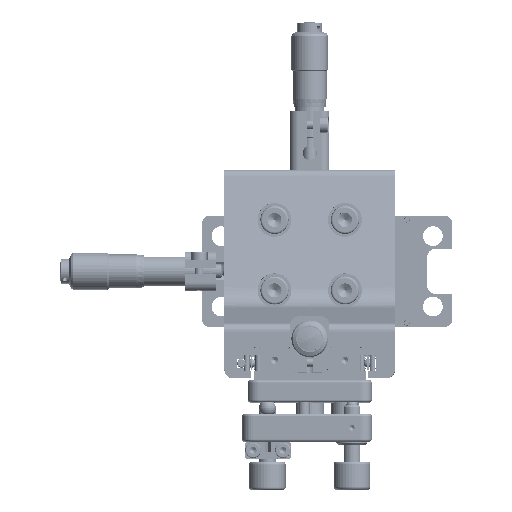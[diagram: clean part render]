
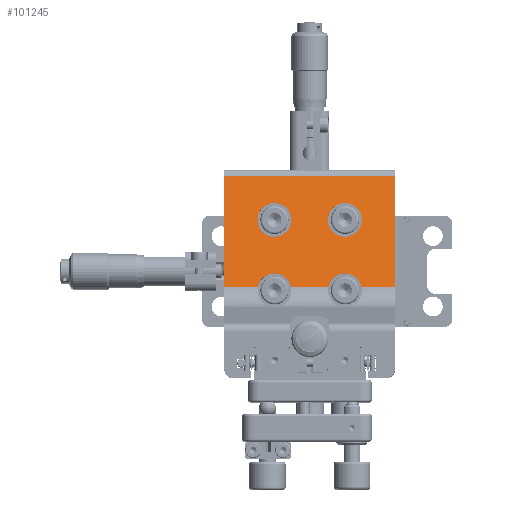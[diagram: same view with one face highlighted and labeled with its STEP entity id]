
A CAD part, top view. The second image highlights one B-rep face of the part: STEP entity #101245.
In plain terms, the highlighted planar face has unit normal (0, 0.259, 0.966).
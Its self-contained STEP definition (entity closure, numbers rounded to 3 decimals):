
#139 = CARTESIAN_POINT ( 'NONE',  ( 24.05, -5.673, 43.816 ) ) ;
#5221 = CARTESIAN_POINT ( 'NONE',  ( 0.3, 18.2, 37.419 ) ) ;
#7699 = CARTESIAN_POINT ( 'NONE',  ( -12.7, 18.2, 37.419 ) ) ;
#7744 = ORIENTED_EDGE ( 'NONE', *, *, #61722, .T. ) ;
#8431 = CARTESIAN_POINT ( 'NONE',  ( 0.3, 18.2, 37.419 ) ) ;
#9062 = CARTESIAN_POINT ( 'NONE',  ( 0.407, -5.673, 43.816 ) ) ;
#10529 = ORIENTED_EDGE ( 'NONE', *, *, #87247, .T. ) ;
#11404 = EDGE_LOOP ( 'NONE', ( #100522, #61853, #89810, #42454, #61532, #131592, #59113, #17588 ) ) ;
#14447 = CARTESIAN_POINT ( 'NONE',  ( -36.45, -11.827, 45.465 ) ) ;
#14701 = CARTESIAN_POINT ( 'NONE',  ( -12.807, -5.673, 43.816 ) ) ;
#14703 = EDGE_CURVE ( 'NONE', #110579, #68047, #124233, .T. ) ;
#14818 = EDGE_CURVE ( 'NONE', #88281, #42251, #20792, .T. ) ;
#15012 = CARTESIAN_POINT ( 'NONE',  ( -24.7, 18.2, 37.419 ) ) ;
#15852 = CARTESIAN_POINT ( 'NONE',  ( -36.45, -5.673, 43.816 ) ) ;
#15856 = VECTOR ( 'NONE', #117612, 1000. ) ;
#17588 = ORIENTED_EDGE ( 'NONE', *, *, #48078, .T. ) ;
#18419 = CARTESIAN_POINT ( 'NONE',  ( -12.7, 6.2, 40.635 ) ) ;
#19699 = EDGE_LOOP ( 'NONE', ( #7744, #10529 ) ) ;
#20792 =( BOUNDED_CURVE ( )  B_SPLINE_CURVE ( 3, ( #32433, #42677, #113911, #95242 ),
 .UNSPECIFIED., .F., .F. ) 
 B_SPLINE_CURVE_WITH_KNOTS ( ( 4, 4 ),
 ( 4.712, 7.854 ),
 .UNSPECIFIED. ) 
 CURVE ( )  GEOMETRIC_REPRESENTATION_ITEM ( )  RATIONAL_B_SPLINE_CURVE ( ( 1., 0.333, 0.333, 1. ) ) 
 REPRESENTATION_ITEM ( '' )  );
#24965 = CARTESIAN_POINT ( 'NONE',  ( -14.417, 2.741, 41.562 ) ) ;
#24966 = CARTESIAN_POINT ( 'NONE',  ( -36.45, 33.776, 33.246 ) ) ;
#25463 = LINE ( 'NONE', #47279, #15856 ) ;
#25754 = ORIENTED_EDGE ( 'NONE', *, *, #60972, .T. ) ;
#26575 = CARTESIAN_POINT ( 'NONE',  ( -12.807, -5.673, 43.816 ) ) ;
#27468 = CARTESIAN_POINT ( 'NONE',  ( -12.7, 18.2, 37.419 ) ) ;
#30183 = VECTOR ( 'NONE', #96827, 1000. ) ;
#32433 = CARTESIAN_POINT ( 'NONE',  ( 12.3, 18.2, 37.419 ) ) ;
#38830 = CARTESIAN_POINT ( 'NONE',  ( -24.7, 18.2, 37.419 ) ) ;
#39434 = LINE ( 'NONE', #49066, #104802 ) ;
#41556 = LINE ( 'NONE', #24966, #49467 ) ;
#41573 = FACE_BOUND ( 'NONE', #63330, .T. ) ;
#42251 = VERTEX_POINT ( 'NONE', #5221 ) ;
#42454 = ORIENTED_EDGE ( 'NONE', *, *, #79656, .T. ) ;
#42677 = CARTESIAN_POINT ( 'NONE',  ( 12.3, 6.2, 40.635 ) ) ;
#45426 =( BOUNDED_CURVE ( )  B_SPLINE_CURVE ( 3, ( #105998, #75765, #24965, #14701 ),
 .UNSPECIFIED., .F., .F. ) 
 B_SPLINE_CURVE_WITH_KNOTS ( ( 4, 4 ),
 ( 1.76, 4.523 ),
 .UNSPECIFIED. ) 
 CURVE ( )  GEOMETRIC_REPRESENTATION_ITEM ( )  RATIONAL_B_SPLINE_CURVE ( ( 1., 0.459, 0.459, 1. ) ) 
 REPRESENTATION_ITEM ( '' )  );
#46189 =( BOUNDED_CURVE ( )  B_SPLINE_CURVE ( 3, ( #7699, #18419, #88405, #38830 ),
 .UNSPECIFIED., .F., .F. ) 
 B_SPLINE_CURVE_WITH_KNOTS ( ( 4, 4 ),
 ( 4.712, 7.854 ),
 .UNSPECIFIED. ) 
 CURVE ( )  GEOMETRIC_REPRESENTATION_ITEM ( )  RATIONAL_B_SPLINE_CURVE ( ( 1., 0.333, 0.333, 1. ) ) 
 REPRESENTATION_ITEM ( '' )  );
#47279 = CARTESIAN_POINT ( 'NONE',  ( 24.05, -5.673, 43.816 ) ) ;
#47902 = DIRECTION ( 'NONE',  ( 0., -0.966, 0.259 ) ) ;
#47974 = FACE_BOUND ( 'NONE', #19699, .T. ) ;
#48078 = EDGE_CURVE ( 'NONE', #94254, #122735, #45426, .T. ) ;
#48800 = CARTESIAN_POINT ( 'NONE',  ( -12.7, 18.2, 37.419 ) ) ;
#49066 = CARTESIAN_POINT ( 'NONE',  ( 24.05, -11.827, 45.465 ) ) ;
#49467 = VECTOR ( 'NONE', #76200, 1000. ) ;
#50276 = CARTESIAN_POINT ( 'NONE',  ( 24.05, -5.673, 43.816 ) ) ;
#50893 = LINE ( 'NONE', #14447, #30183 ) ;
#51802 = VECTOR ( 'NONE', #59882, 1000. ) ;
#54321 = EDGE_CURVE ( 'NONE', #122735, #129682, #25463, .T. ) ;
#55243 =( BOUNDED_CURVE ( )  B_SPLINE_CURVE ( 3, ( #8431, #59694, #81058, #69923 ),
 .UNSPECIFIED., .F., .F. ) 
 B_SPLINE_CURVE_WITH_KNOTS ( ( 4, 4 ),
 ( 1.571, 4.712 ),
 .UNSPECIFIED. ) 
 CURVE ( )  GEOMETRIC_REPRESENTATION_ITEM ( )  RATIONAL_B_SPLINE_CURVE ( ( 1., 0.333, 0.333, 1. ) ) 
 REPRESENTATION_ITEM ( '' )  );
#56407 = EDGE_CURVE ( 'NONE', #78923, #67880, #41556, .T. ) ;
#57791 = EDGE_CURVE ( 'NONE', #119546, #67880, #50893, .T. ) ;
#58529 = VERTEX_POINT ( 'NONE', #15012 ) ;
#59037 = VECTOR ( 'NONE', #123250, 1000. ) ;
#59113 = ORIENTED_EDGE ( 'NONE', *, *, #83652, .T. ) ;
#59361 =( BOUNDED_CURVE ( )  B_SPLINE_CURVE ( 3, ( #9062, #80377, #81700, #121228 ),
 .UNSPECIFIED., .F., .F. ) 
 B_SPLINE_CURVE_WITH_KNOTS ( ( 4, 4 ),
 ( 1.76, 4.523 ),
 .UNSPECIFIED. ) 
 CURVE ( )  GEOMETRIC_REPRESENTATION_ITEM ( )  RATIONAL_B_SPLINE_CURVE ( ( 1., 0.459, 0.459, 1. ) ) 
 REPRESENTATION_ITEM ( '' )  );
#59694 = CARTESIAN_POINT ( 'NONE',  ( 0.3, 30.2, 34.204 ) ) ;
#59882 = DIRECTION ( 'NONE',  ( 1., 0., 0. ) ) ;
#60851 = CARTESIAN_POINT ( 'NONE',  ( 24.05, 33.776, 33.246 ) ) ;
#60972 = EDGE_CURVE ( 'NONE', #42251, #88281, #55243, .T. ) ;
#61532 = ORIENTED_EDGE ( 'NONE', *, *, #56407, .T. ) ;
#61722 = EDGE_CURVE ( 'NONE', #58529, #64062, #118818, .T. ) ;
#61853 = ORIENTED_EDGE ( 'NONE', *, *, #64450, .T. ) ;
#63330 = EDGE_LOOP ( 'NONE', ( #25754, #88408 ) ) ;
#64062 = VERTEX_POINT ( 'NONE', #48800 ) ;
#64450 = EDGE_CURVE ( 'NONE', #129682, #110579, #59361, .T. ) ;
#65065 = AXIS2_PLACEMENT_3D ( 'NONE', #108902, #87203, #47902 ) ;
#67880 = VERTEX_POINT ( 'NONE', #96832 ) ;
#68047 = VERTEX_POINT ( 'NONE', #139 ) ;
#69923 = CARTESIAN_POINT ( 'NONE',  ( 12.3, 18.2, 37.419 ) ) ;
#75586 = CARTESIAN_POINT ( 'NONE',  ( -24.593, -5.673, 43.816 ) ) ;
#75765 = CARTESIAN_POINT ( 'NONE',  ( -22.983, 2.741, 41.562 ) ) ;
#76200 = DIRECTION ( 'NONE',  ( -1., 0., 0. ) ) ;
#78923 = VERTEX_POINT ( 'NONE', #60851 ) ;
#79656 = EDGE_CURVE ( 'NONE', #68047, #78923, #39434, .T. ) ;
#80377 = CARTESIAN_POINT ( 'NONE',  ( 2.017, 2.741, 41.562 ) ) ;
#81058 = CARTESIAN_POINT ( 'NONE',  ( 12.3, 30.2, 34.204 ) ) ;
#81700 = CARTESIAN_POINT ( 'NONE',  ( 10.583, 2.741, 41.562 ) ) ;
#83652 = EDGE_CURVE ( 'NONE', #119546, #94254, #86881, .T. ) ;
#86367 = CARTESIAN_POINT ( 'NONE',  ( 12.3, 18.2, 37.419 ) ) ;
#86881 = LINE ( 'NONE', #110987, #51802 ) ;
#87203 = DIRECTION ( 'NONE',  ( 0., -0.259, -0.966 ) ) ;
#87247 = EDGE_CURVE ( 'NONE', #64062, #58529, #46189, .T. ) ;
#88281 = VERTEX_POINT ( 'NONE', #86367 ) ;
#88405 = CARTESIAN_POINT ( 'NONE',  ( -24.7, 6.2, 40.635 ) ) ;
#88408 = ORIENTED_EDGE ( 'NONE', *, *, #14818, .T. ) ;
#88530 = CARTESIAN_POINT ( 'NONE',  ( -24.7, 30.2, 34.204 ) ) ;
#89810 = ORIENTED_EDGE ( 'NONE', *, *, #14703, .T. ) ;
#94254 = VERTEX_POINT ( 'NONE', #75586 ) ;
#95242 = CARTESIAN_POINT ( 'NONE',  ( 0.3, 18.2, 37.419 ) ) ;
#96827 = DIRECTION ( 'NONE',  ( 0., 0.966, -0.259 ) ) ;
#96832 = CARTESIAN_POINT ( 'NONE',  ( -36.45, 33.776, 33.246 ) ) ;
#98108 = DIRECTION ( 'NONE',  ( 0., 0.966, -0.259 ) ) ;
#100522 = ORIENTED_EDGE ( 'NONE', *, *, #54321, .T. ) ;
#101245 = ADVANCED_FACE ( 'NONE', ( #41573, #47974, #130724 ), #118240, .F. ) ;
#104802 = VECTOR ( 'NONE', #98108, 1000. ) ;
#105998 = CARTESIAN_POINT ( 'NONE',  ( -24.593, -5.673, 43.816 ) ) ;
#108902 = CARTESIAN_POINT ( 'NONE',  ( -36.45, -11.827, 45.465 ) ) ;
#110218 = CARTESIAN_POINT ( 'NONE',  ( -24.7, 18.2, 37.419 ) ) ;
#110579 = VERTEX_POINT ( 'NONE', #117937 ) ;
#110987 = CARTESIAN_POINT ( 'NONE',  ( 24.05, -5.673, 43.816 ) ) ;
#113911 = CARTESIAN_POINT ( 'NONE',  ( 0.3, 6.2, 40.635 ) ) ;
#117612 = DIRECTION ( 'NONE',  ( 1., 0., 0. ) ) ;
#117937 = CARTESIAN_POINT ( 'NONE',  ( 12.193, -5.673, 43.816 ) ) ;
#118240 = PLANE ( 'NONE',  #65065 ) ;
#118685 = CARTESIAN_POINT ( 'NONE',  ( -12.7, 30.2, 34.204 ) ) ;
#118818 =( BOUNDED_CURVE ( )  B_SPLINE_CURVE ( 3, ( #110218, #88530, #118685, #27468 ),
 .UNSPECIFIED., .F., .F. ) 
 B_SPLINE_CURVE_WITH_KNOTS ( ( 4, 4 ),
 ( 1.571, 4.712 ),
 .UNSPECIFIED. ) 
 CURVE ( )  GEOMETRIC_REPRESENTATION_ITEM ( )  RATIONAL_B_SPLINE_CURVE ( ( 1., 0.333, 0.333, 1. ) ) 
 REPRESENTATION_ITEM ( '' )  );
#119546 = VERTEX_POINT ( 'NONE', #15852 ) ;
#121228 = CARTESIAN_POINT ( 'NONE',  ( 12.193, -5.673, 43.816 ) ) ;
#122735 = VERTEX_POINT ( 'NONE', #26575 ) ;
#123250 = DIRECTION ( 'NONE',  ( 1., 0., 0. ) ) ;
#124233 = LINE ( 'NONE', #50276, #59037 ) ;
#126123 = CARTESIAN_POINT ( 'NONE',  ( 0.407, -5.673, 43.816 ) ) ;
#129682 = VERTEX_POINT ( 'NONE', #126123 ) ;
#130724 = FACE_OUTER_BOUND ( 'NONE', #11404, .T. ) ;
#131592 = ORIENTED_EDGE ( 'NONE', *, *, #57791, .F. ) ;
